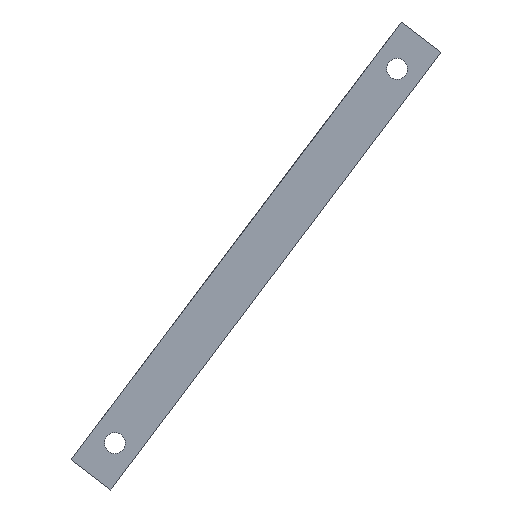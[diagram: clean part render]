
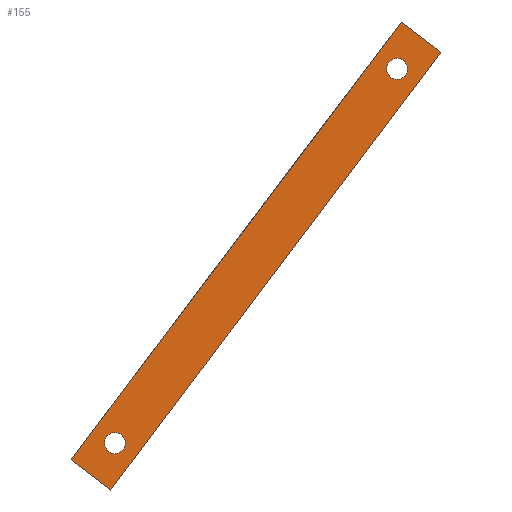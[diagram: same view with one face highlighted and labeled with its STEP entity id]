
A CAD part, front view. The second image highlights one B-rep face of the part: STEP entity #155.
In plain terms, the highlighted planar face has unit normal (0, -1, 0).
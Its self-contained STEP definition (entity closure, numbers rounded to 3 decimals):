
#39 = EDGE_CURVE('',#40,#42,#44,.T.);
#40 = VERTEX_POINT('',#41);
#41 = CARTESIAN_POINT('',(-55.,-3.,-5.));
#42 = VERTEX_POINT('',#43);
#43 = CARTESIAN_POINT('',(-55.,-3.,5.));
#44 = SURFACE_CURVE('',#45,(#49,#61),.PCURVE_S1.);
#45 = LINE('',#46,#47);
#46 = CARTESIAN_POINT('',(-55.,-3.,-5.));
#47 = VECTOR('',#48,1.);
#48 = DIRECTION('',(0.,0.,1.));
#49 = PCURVE('',#50,#55);
#50 = PLANE('',#51);
#51 = AXIS2_PLACEMENT_3D('',#52,#53,#54);
#52 = CARTESIAN_POINT('',(-55.,-3.,-5.));
#53 = DIRECTION('',(1.,0.,-0.));
#54 = DIRECTION('',(0.,0.,1.));
#55 = DEFINITIONAL_REPRESENTATION('',(#56),#60);
#56 = LINE('',#57,#58);
#57 = CARTESIAN_POINT('',(0.,0.));
#58 = VECTOR('',#59,1.);
#59 = DIRECTION('',(1.,0.));
#60 = ( GEOMETRIC_REPRESENTATION_CONTEXT(2) 
PARAMETRIC_REPRESENTATION_CONTEXT() REPRESENTATION_CONTEXT('2D SPACE',''
  ) );
#61 = PCURVE('',#62,#67);
#62 = PLANE('',#63);
#63 = AXIS2_PLACEMENT_3D('',#64,#65,#66);
#64 = CARTESIAN_POINT('',(-55.,-3.,-5.));
#65 = DIRECTION('',(-0.,1.,0.));
#66 = DIRECTION('',(0.,0.,1.));
#67 = DEFINITIONAL_REPRESENTATION('',(#68),#72);
#68 = LINE('',#69,#70);
#69 = CARTESIAN_POINT('',(0.,0.));
#70 = VECTOR('',#71,1.);
#71 = DIRECTION('',(1.,0.));
#72 = ( GEOMETRIC_REPRESENTATION_CONTEXT(2) 
PARAMETRIC_REPRESENTATION_CONTEXT() REPRESENTATION_CONTEXT('2D SPACE',''
  ) );
#90 = PLANE('',#91);
#91 = AXIS2_PLACEMENT_3D('',#92,#93,#94);
#92 = CARTESIAN_POINT('',(-55.,-3.,-5.));
#93 = DIRECTION('',(0.,0.,1.));
#94 = DIRECTION('',(1.,0.,-0.));
#144 = PLANE('',#145);
#145 = AXIS2_PLACEMENT_3D('',#146,#147,#148);
#146 = CARTESIAN_POINT('',(-55.,-3.,5.));
#147 = DIRECTION('',(0.,0.,1.));
#148 = DIRECTION('',(1.,0.,-0.));
#155 = ADVANCED_FACE('',(#156,#231,#266),#62,.F.);
#156 = FACE_BOUND('',#157,.F.);
#157 = EDGE_LOOP('',(#158,#181,#182,#205));
#158 = ORIENTED_EDGE('',*,*,#159,.F.);
#159 = EDGE_CURVE('',#40,#160,#162,.T.);
#160 = VERTEX_POINT('',#161);
#161 = CARTESIAN_POINT('',(55.,-3.,-5.));
#162 = SURFACE_CURVE('',#163,(#167,#174),.PCURVE_S1.);
#163 = LINE('',#164,#165);
#164 = CARTESIAN_POINT('',(-55.,-3.,-5.));
#165 = VECTOR('',#166,1.);
#166 = DIRECTION('',(1.,0.,-0.));
#167 = PCURVE('',#62,#168);
#168 = DEFINITIONAL_REPRESENTATION('',(#169),#173);
#169 = LINE('',#170,#171);
#170 = CARTESIAN_POINT('',(0.,0.));
#171 = VECTOR('',#172,1.);
#172 = DIRECTION('',(0.,1.));
#173 = ( GEOMETRIC_REPRESENTATION_CONTEXT(2) 
PARAMETRIC_REPRESENTATION_CONTEXT() REPRESENTATION_CONTEXT('2D SPACE',''
  ) );
#174 = PCURVE('',#90,#175);
#175 = DEFINITIONAL_REPRESENTATION('',(#176),#180);
#176 = LINE('',#177,#178);
#177 = CARTESIAN_POINT('',(0.,0.));
#178 = VECTOR('',#179,1.);
#179 = DIRECTION('',(1.,0.));
#180 = ( GEOMETRIC_REPRESENTATION_CONTEXT(2) 
PARAMETRIC_REPRESENTATION_CONTEXT() REPRESENTATION_CONTEXT('2D SPACE',''
  ) );
#181 = ORIENTED_EDGE('',*,*,#39,.T.);
#182 = ORIENTED_EDGE('',*,*,#183,.T.);
#183 = EDGE_CURVE('',#42,#184,#186,.T.);
#184 = VERTEX_POINT('',#185);
#185 = CARTESIAN_POINT('',(55.,-3.,5.));
#186 = SURFACE_CURVE('',#187,(#191,#198),.PCURVE_S1.);
#187 = LINE('',#188,#189);
#188 = CARTESIAN_POINT('',(-55.,-3.,5.));
#189 = VECTOR('',#190,1.);
#190 = DIRECTION('',(1.,0.,-0.));
#191 = PCURVE('',#62,#192);
#192 = DEFINITIONAL_REPRESENTATION('',(#193),#197);
#193 = LINE('',#194,#195);
#194 = CARTESIAN_POINT('',(10.,0.));
#195 = VECTOR('',#196,1.);
#196 = DIRECTION('',(0.,1.));
#197 = ( GEOMETRIC_REPRESENTATION_CONTEXT(2) 
PARAMETRIC_REPRESENTATION_CONTEXT() REPRESENTATION_CONTEXT('2D SPACE',''
  ) );
#198 = PCURVE('',#144,#199);
#199 = DEFINITIONAL_REPRESENTATION('',(#200),#204);
#200 = LINE('',#201,#202);
#201 = CARTESIAN_POINT('',(0.,0.));
#202 = VECTOR('',#203,1.);
#203 = DIRECTION('',(1.,0.));
#204 = ( GEOMETRIC_REPRESENTATION_CONTEXT(2) 
PARAMETRIC_REPRESENTATION_CONTEXT() REPRESENTATION_CONTEXT('2D SPACE',''
  ) );
#205 = ORIENTED_EDGE('',*,*,#206,.F.);
#206 = EDGE_CURVE('',#160,#184,#207,.T.);
#207 = SURFACE_CURVE('',#208,(#212,#219),.PCURVE_S1.);
#208 = LINE('',#209,#210);
#209 = CARTESIAN_POINT('',(55.,-3.,-5.));
#210 = VECTOR('',#211,1.);
#211 = DIRECTION('',(0.,0.,1.));
#212 = PCURVE('',#62,#213);
#213 = DEFINITIONAL_REPRESENTATION('',(#214),#218);
#214 = LINE('',#215,#216);
#215 = CARTESIAN_POINT('',(0.,110.));
#216 = VECTOR('',#217,1.);
#217 = DIRECTION('',(1.,0.));
#218 = ( GEOMETRIC_REPRESENTATION_CONTEXT(2) 
PARAMETRIC_REPRESENTATION_CONTEXT() REPRESENTATION_CONTEXT('2D SPACE',''
  ) );
#219 = PCURVE('',#220,#225);
#220 = PLANE('',#221);
#221 = AXIS2_PLACEMENT_3D('',#222,#223,#224);
#222 = CARTESIAN_POINT('',(55.,-3.,-5.));
#223 = DIRECTION('',(1.,0.,-0.));
#224 = DIRECTION('',(0.,0.,1.));
#225 = DEFINITIONAL_REPRESENTATION('',(#226),#230);
#226 = LINE('',#227,#228);
#227 = CARTESIAN_POINT('',(0.,0.));
#228 = VECTOR('',#229,1.);
#229 = DIRECTION('',(1.,0.));
#230 = ( GEOMETRIC_REPRESENTATION_CONTEXT(2) 
PARAMETRIC_REPRESENTATION_CONTEXT() REPRESENTATION_CONTEXT('2D SPACE',''
  ) );
#231 = FACE_BOUND('',#232,.F.);
#232 = EDGE_LOOP('',(#233));
#233 = ORIENTED_EDGE('',*,*,#234,.T.);
#234 = EDGE_CURVE('',#235,#235,#237,.T.);
#235 = VERTEX_POINT('',#236);
#236 = CARTESIAN_POINT('',(-44.9,-3.,0.));
#237 = SURFACE_CURVE('',#238,(#243,#254),.PCURVE_S1.);
#238 = CIRCLE('',#239,2.1);
#239 = AXIS2_PLACEMENT_3D('',#240,#241,#242);
#240 = CARTESIAN_POINT('',(-47.,-3.,0.));
#241 = DIRECTION('',(0.,-1.,0.));
#242 = DIRECTION('',(1.,0.,0.));
#243 = PCURVE('',#62,#244);
#244 = DEFINITIONAL_REPRESENTATION('',(#245),#253);
#245 = ( BOUNDED_CURVE() B_SPLINE_CURVE(2,(#246,#247,#248,#249,#250,#251
,#252),.UNSPECIFIED.,.T.,.F.) B_SPLINE_CURVE_WITH_KNOTS((1,2,2,2,2,1),(
    -2.094,0.,2.094,4.189,6.283,
8.378),.UNSPECIFIED.) CURVE() GEOMETRIC_REPRESENTATION_ITEM() 
RATIONAL_B_SPLINE_CURVE((1.,0.5,1.,0.5,1.,0.5,1.)) REPRESENTATION_ITEM(
  '') );
#246 = CARTESIAN_POINT('',(5.,10.1));
#247 = CARTESIAN_POINT('',(8.637,10.1));
#248 = CARTESIAN_POINT('',(6.819,6.95));
#249 = CARTESIAN_POINT('',(5.,3.8));
#250 = CARTESIAN_POINT('',(3.181,6.95));
#251 = CARTESIAN_POINT('',(1.363,10.1));
#252 = CARTESIAN_POINT('',(5.,10.1));
#253 = ( GEOMETRIC_REPRESENTATION_CONTEXT(2) 
PARAMETRIC_REPRESENTATION_CONTEXT() REPRESENTATION_CONTEXT('2D SPACE',''
  ) );
#254 = PCURVE('',#255,#260);
#255 = CYLINDRICAL_SURFACE('',#256,2.1);
#256 = AXIS2_PLACEMENT_3D('',#257,#258,#259);
#257 = CARTESIAN_POINT('',(-47.,4.,0.));
#258 = DIRECTION('',(0.,-1.,0.));
#259 = DIRECTION('',(1.,0.,0.));
#260 = DEFINITIONAL_REPRESENTATION('',(#261),#265);
#261 = LINE('',#262,#263);
#262 = CARTESIAN_POINT('',(0.,7.));
#263 = VECTOR('',#264,1.);
#264 = DIRECTION('',(1.,0.));
#265 = ( GEOMETRIC_REPRESENTATION_CONTEXT(2) 
PARAMETRIC_REPRESENTATION_CONTEXT() REPRESENTATION_CONTEXT('2D SPACE',''
  ) );
#266 = FACE_BOUND('',#267,.F.);
#267 = EDGE_LOOP('',(#268));
#268 = ORIENTED_EDGE('',*,*,#269,.T.);
#269 = EDGE_CURVE('',#270,#270,#272,.T.);
#270 = VERTEX_POINT('',#271);
#271 = CARTESIAN_POINT('',(49.1,-3.,0.));
#272 = SURFACE_CURVE('',#273,(#278,#289),.PCURVE_S1.);
#273 = CIRCLE('',#274,2.1);
#274 = AXIS2_PLACEMENT_3D('',#275,#276,#277);
#275 = CARTESIAN_POINT('',(47.,-3.,0.));
#276 = DIRECTION('',(0.,-1.,0.));
#277 = DIRECTION('',(1.,0.,0.));
#278 = PCURVE('',#62,#279);
#279 = DEFINITIONAL_REPRESENTATION('',(#280),#288);
#280 = ( BOUNDED_CURVE() B_SPLINE_CURVE(2,(#281,#282,#283,#284,#285,#286
,#287),.UNSPECIFIED.,.T.,.F.) B_SPLINE_CURVE_WITH_KNOTS((1,2,2,2,2,1),(
    -2.094,0.,2.094,4.189,6.283,
8.378),.UNSPECIFIED.) CURVE() GEOMETRIC_REPRESENTATION_ITEM() 
RATIONAL_B_SPLINE_CURVE((1.,0.5,1.,0.5,1.,0.5,1.)) REPRESENTATION_ITEM(
  '') );
#281 = CARTESIAN_POINT('',(5.,104.1));
#282 = CARTESIAN_POINT('',(8.637,104.1));
#283 = CARTESIAN_POINT('',(6.819,100.95));
#284 = CARTESIAN_POINT('',(5.,97.8));
#285 = CARTESIAN_POINT('',(3.181,100.95));
#286 = CARTESIAN_POINT('',(1.363,104.1));
#287 = CARTESIAN_POINT('',(5.,104.1));
#288 = ( GEOMETRIC_REPRESENTATION_CONTEXT(2) 
PARAMETRIC_REPRESENTATION_CONTEXT() REPRESENTATION_CONTEXT('2D SPACE',''
  ) );
#289 = PCURVE('',#290,#295);
#290 = CYLINDRICAL_SURFACE('',#291,2.1);
#291 = AXIS2_PLACEMENT_3D('',#292,#293,#294);
#292 = CARTESIAN_POINT('',(47.,4.,0.));
#293 = DIRECTION('',(0.,-1.,0.));
#294 = DIRECTION('',(1.,0.,0.));
#295 = DEFINITIONAL_REPRESENTATION('',(#296),#300);
#296 = LINE('',#297,#298);
#297 = CARTESIAN_POINT('',(0.,7.));
#298 = VECTOR('',#299,1.);
#299 = DIRECTION('',(1.,0.));
#300 = ( GEOMETRIC_REPRESENTATION_CONTEXT(2) 
PARAMETRIC_REPRESENTATION_CONTEXT() REPRESENTATION_CONTEXT('2D SPACE',''
  ) );
